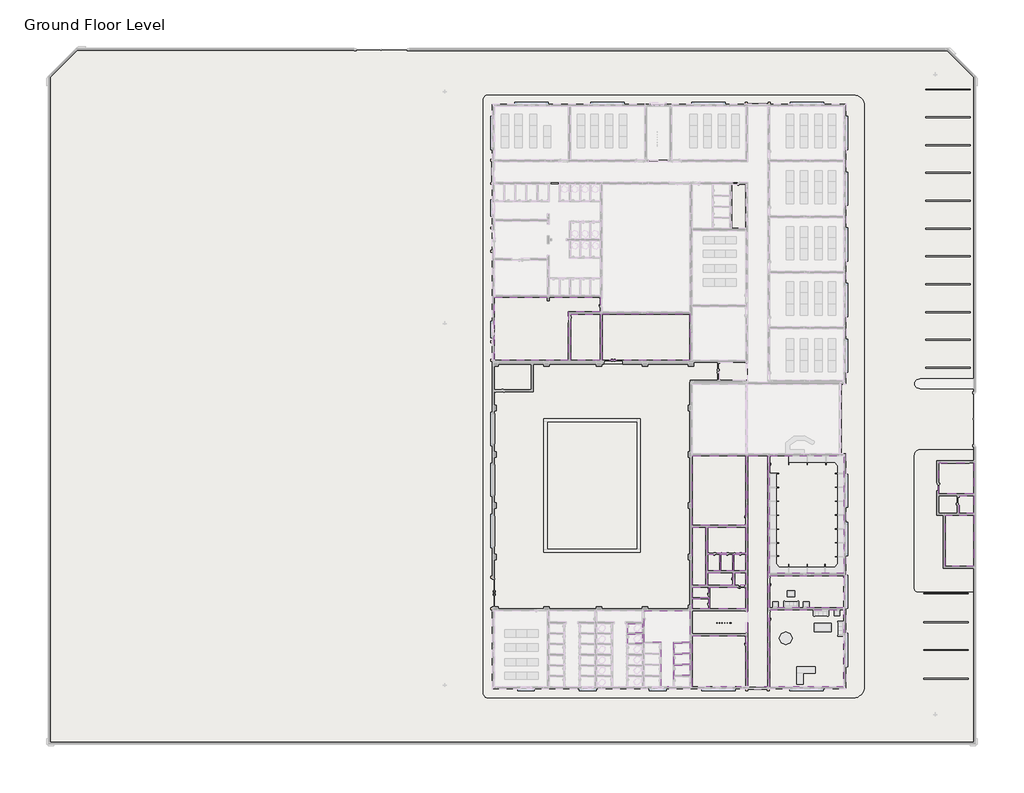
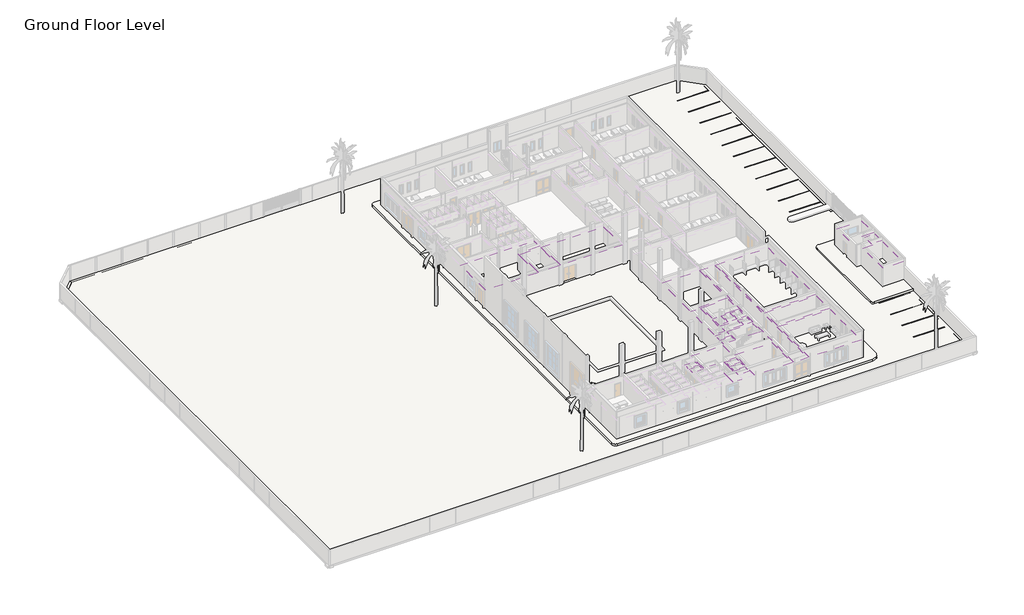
# One storey, part 11 of 23: 28 coverings, 18 slabs.
"""IFC4 building model written with IfcOpenShell, lengths in millimetres."""

from ifc_helpers import new_model, si_unit, point, frame, frame_2d, origin, place, context, project, spatial, polyline, circle_curve, trimmed, segment, composite_curve, outline, extrude, faceted_brep, element, save

model = new_model("IFC4")

# Units and contexts
model_context = context("Model", 3, world=origin())
ifc_project = project(units=[si_unit("LENGTHUNIT", "METRE", prefix="MILLI")], contexts=[model_context])

# Site, building, storey
site = spatial("IfcSite", under=ifc_project)
building = spatial("IfcBuilding", under=site)
storey = spatial("IfcBuildingStorey", under=building, Name="Ground Floor Level", Elevation=900.0)

# Coverings
placement = place(None, origin())
element("IfcCovering", 1, ObjectType="600 x 1200mm Grid", at=placement, inside=storey, context=model_context, shape_type="SweptSolid", body=[
    extrude(outline(polyline([(15843.0482736, -28944.7846466), (7862.7672395, -28944.7846466), (7862.7672395, -16264.7846466), (15843.0482736, -16264.7846466), (15843.0482736, -28944.7846466)])), frame((0.0, 0.0, 3650.0), z_axis=(0.0, 0.0, 1.0), x_axis=(1.0, 0.0, 0.0)), (0.0, 0.0, 1.0), 52.0),
])
element("IfcCovering", 2, ObjectType="600 x 600mm Grid", at=placement, inside=storey, context=model_context, shape_type="SweptSolid", body=[
    extrude(outline(polyline([(-757.2327605, -5944.7846466), (-10237.2327605, -5944.7846466), (-10237.2327605, -964.7846466), (-757.2327605, -964.7846466), (-757.2327605, -5944.7846466)])), frame((0.0, 0.0, 3650.0), z_axis=(0.0, 0.0, 1.0), x_axis=(1.0, 0.0, 0.0)), (0.0, 0.0, 1.0), 52.0),
])
element("IfcCovering", 3, ObjectType="600 x 600mm Grid", at=placement, inside=storey, context=model_context, shape_type="SweptSolid", body=[
    extrude(outline(polyline([(5242.7672394, -16264.7846466), (5242.7672394, -23744.7846466), (-537.2327605, -23744.7846466), (-537.2327605, -16264.7846466), (5242.7672394, -16264.7846466)])), frame((0.0, 0.0, 3650.0), z_axis=(0.0, 0.0, 1.0), x_axis=(1.0, 0.0, 0.0)), (0.0, 0.0, 1.0), 52.0),
])
element("IfcCovering", 4, ObjectType="600 x 600mm Grid", at=placement, inside=storey, context=model_context, shape_type="SweptSolid", body=[
    extrude(outline(polyline([(15843.0482736, -32644.7846466), (7862.7672395, -32644.7846466), (7862.7672395, -29164.7846466), (15843.0482736, -29164.7846466), (15843.0482736, -32644.7846466)])), frame((0.0, 0.0, 3650.0), z_axis=(0.0, 0.0, 1.0), x_axis=(1.0, 0.0, 0.0)), (0.0, 0.0, 1.0), 52.0),
])
element("IfcCovering", 5, ObjectType="600 x 600mm Grid", at=placement, inside=storey, context=model_context, shape_type="SweptSolid", body=[
    extrude(outline(polyline([(7862.7672395, -41144.7846466), (7862.7672395, -32864.7846466), (15843.0482736, -32864.7846466), (15843.0482736, -41144.7846466), (7862.7672395, -41144.7846466)])), frame((0.0, 0.0, 3650.0), z_axis=(0.0, 0.0, 1.0), x_axis=(1.0, 0.0, 0.0)), (0.0, 0.0, 1.0), 52.0),
])
element("IfcCovering", 6, ObjectType="600 x 600mm Grid", at=placement, inside=storey, context=model_context, shape_type="SweptSolid", body=[
    extrude(outline(polyline([(-537.2327605, -41144.7846466), (-537.2327605, -35664.7846466), (5242.7672394, -35664.7846466), (5242.7672394, -41144.7846466), (-537.2327605, -41144.7846466)])), frame((0.0, 0.0, 3650.0), z_axis=(0.0, 0.0, 1.0), x_axis=(1.0, 0.0, 0.0)), (0.0, 0.0, 1.0), 52.0),
])
element("IfcCovering", 7, ObjectType="600 x 600mm Grid", at=placement, inside=storey, context=model_context, shape_type="SweptSolid", body=[
    extrude(outline(polyline([(-21837.2327605, 835.2153534), (-10457.2327605, 835.2153534), (-10457.2327605, -734.7846466), (-13867.2327605, -734.7846466), (-13867.2327605, -5944.7846466), (-21837.2327605, -5944.7846466), (-21837.2327605, 835.2153534)])), frame((0.0, 0.0, 3650.0), z_axis=(0.0, 0.0, 1.0), x_axis=(1.0, 0.0, 0.0)), (0.0, 0.0, 1.0), 52.0),
])
element("IfcCovering", 8, ObjectType="600 x 600mm Grid", at=placement, inside=storey, context=model_context, shape_type="SweptSolid", body=[
    extrude(outline(polyline([(-13627.2327605, -974.7846466), (-10457.2327605, -974.7846466), (-10457.2327605, -5944.7846466), (-13627.2327605, -5944.7846466), (-13627.2327605, -974.7846466)])), frame((0.0, 0.0, 3650.0), z_axis=(0.0, 0.0, 1.0), x_axis=(1.0, 0.0, 0.0)), (0.0, 0.0, 1.0), 52.0),
])
element("IfcCovering", 9, ObjectType="600 x 600mm Grid", at=placement, inside=storey, context=model_context, shape_type="SweptSolid", body=[
    extrude(outline(polyline([(26062.7672395, -17014.7846454), (29842.7672395, -17014.7846454), (29842.7672395, -20344.7846454), (26062.7672395, -20344.7846454), (26062.7672395, -17014.7846454)])), frame((0.0, 0.0, 3650.0), z_axis=(0.0, 0.0, 1.0), x_axis=(1.0, 0.0, 0.0)), (0.0, 0.0, 1.0), 52.0),
])
element("IfcCovering", 10, ObjectType="600 x 600mm Grid", at=placement, inside=storey, context=model_context, shape_type="SweptSolid", body=[
    extrude(outline(polyline([(29842.7672395, -20564.7846454), (29842.7672395, -22464.7846454), (28282.7672395, -22464.7846454), (28282.7672395, -20564.7846454), (29842.7672395, -20564.7846454)])), frame((0.0, 0.0, 3650.0), z_axis=(0.0, 0.0, 1.0), x_axis=(1.0, 0.0, 0.0)), (0.0, 0.0, 1.0), 52.0),
])
element("IfcCovering", 11, ObjectType="600 x 600mm Grid", at=placement, inside=storey, context=model_context, shape_type="SweptSolid", body=[
    extrude(outline(polyline([(29842.7672395, -22684.7846454), (29842.7672395, -28144.7846456), (26762.7672394, -28144.7846456), (26762.7672394, -22684.7846454), (29842.7672395, -22684.7846454)])), frame((0.0, 0.0, 3650.0), z_axis=(0.0, 0.0, 1.0), x_axis=(1.0, 0.0, 0.0)), (0.0, 0.0, 1.0), 52.0),
])
element("IfcCovering", 12, ObjectType="Plain", at=placement, inside=storey, context=model_context, shape_type="SweptSolid", body=[
    extrude(outline(polyline([(-3871.0371386, -36344.7846466), (-5670.5687605, -36344.7846466), (-5670.5687605, -32964.7846466), (-757.2327605, -32964.7846466), (-757.2327605, -36344.7846466), (-2556.7643824, -36344.7846466), (-2556.7643824, -41144.7846466), (-3871.0371386, -41144.7846466), (-3871.0371386, -36344.7846466)])), frame((0.0, 0.0, 3650.0), z_axis=(0.0, 0.0, 1.0), x_axis=(1.0, 0.0, 0.0)), (0.0, 0.0, 1.0), 57.0),
])
element("IfcCovering", 13, ObjectType="Plain", at=placement, inside=storey, context=model_context, shape_type="SweptSolid", body=[
    extrude(outline(polyline([(-7467.2347605, -35512.7835466), (-5890.5687605, -35512.7835466), (-5890.5687605, -36482.7833366), (-7467.2347605, -36482.7833366), (-7467.2347605, -35512.7835466)])), frame((0.0, 0.0, 3650.0), z_axis=(0.0, 0.0, 1.0), x_axis=(1.0, 0.0, 0.0)), (0.0, 0.0, 1.0), 57.0),
])
element("IfcCovering", 14, ObjectType="Plain", at=placement, inside=storey, context=model_context, shape_type="SweptSolid", body=[
    extrude(outline(polyline([(-5890.5687605, -34364.6926466), (-5890.5687605, -35342.7835466), (-7467.2347605, -35342.7835466), (-7467.2347605, -34364.6926466), (-5890.5687605, -34364.6926466)])), frame((0.0, 0.0, 3650.0), z_axis=(0.0, 0.0, 1.0), x_axis=(1.0, 0.0, 0.0)), (0.0, 0.0, 1.0), 57.0),
])
element("IfcCovering", 15, ObjectType="Plain", at=placement, inside=storey, context=model_context, shape_type="SweptSolid", body=[
    extrude(outline(polyline([(-757.2327605, -37544.7846466), (-2436.7643824, -37544.7846466), (-2436.7643824, -36464.7846466), (-757.2327605, -36464.7846466), (-757.2327605, -37544.7846466)])), frame((0.0, 0.0, 3650.0), z_axis=(0.0, 0.0, 1.0), x_axis=(1.0, 0.0, 0.0)), (0.0, 0.0, 1.0), 57.0),
])
element("IfcCovering", 16, ObjectType="Plain", at=placement, inside=storey, context=model_context, shape_type="SweptSolid", body=[
    extrude(outline(polyline([(-757.2327605, -38744.7846466), (-2436.7643824, -38744.7846466), (-2436.7643824, -37664.7846466), (-757.2327605, -37664.7846466), (-757.2327605, -38744.7846466)])), frame((0.0, 0.0, 3650.0), z_axis=(0.0, 0.0, 1.0), x_axis=(1.0, 0.0, 0.0)), (0.0, 0.0, 1.0), 57.0),
])
element("IfcCovering", 17, ObjectType="Plain", at=placement, inside=storey, context=model_context, shape_type="SweptSolid", body=[
    extrude(outline(polyline([(-757.2327605, -39944.7846466), (-2436.7643824, -39944.7846466), (-2436.7643824, -38864.7846466), (-757.2327605, -38864.7846466), (-757.2327605, -39944.7846466)])), frame((0.0, 0.0, 3650.0), z_axis=(0.0, 0.0, 1.0), x_axis=(1.0, 0.0, 0.0)), (0.0, 0.0, 1.0), 57.0),
])
element("IfcCovering", 18, ObjectType="Plain", at=placement, inside=storey, context=model_context, shape_type="SweptSolid", body=[
    extrude(outline(polyline([(5462.7672394, -35354.7846466), (5462.7672394, -33074.7846466), (5462.7672394, -16264.7846466), (7642.7672395, -16264.7846466), (7642.7672395, -41144.7846466), (5462.7672394, -41144.7846466), (5462.7672394, -35354.7846466)])), frame((0.0, 0.0, 3650.0), z_axis=(0.0, 0.0, 1.0), x_axis=(1.0, 0.0, 0.0)), (0.0, 0.0, 1.0), 57.0),
])
element("IfcCovering", 19, ObjectType="Plain", at=placement, inside=storey, context=model_context, shape_type="SweptSolid", body=[
    extrude(outline(polyline([(5242.7672394, -23964.7846466), (5242.7672394, -26744.7846466), (1162.7672395, -26744.7846466), (1162.7672395, -23964.7846466), (5242.7672394, -23964.7846466)])), frame((0.0, 0.0, 3650.0), z_axis=(0.0, 0.0, 1.0), x_axis=(1.0, 0.0, 0.0)), (0.0, 0.0, 1.0), 57.0),
])
element("IfcCovering", 20, ObjectType="Plain", at=placement, inside=storey, context=model_context, shape_type="SweptSolid", body=[
    extrude(outline(polyline([(942.7672395, -30234.7846466), (-537.2327605, -30234.7846466), (-537.2327605, -23964.7846466), (942.7672395, -23964.7846466), (942.7672395, -30234.7846466)])), frame((0.0, 0.0, 3650.0), z_axis=(0.0, 0.0, 1.0), x_axis=(1.0, 0.0, 0.0)), (0.0, 0.0, 1.0), 57.0),
])
element("IfcCovering", 21, ObjectType="Plain", at=placement, inside=storey, context=model_context, shape_type="SweptSolid", body=[
    extrude(outline(polyline([(2442.7672395, -28644.7846466), (1162.7672395, -28644.7846466), (1162.7672395, -26864.7846466), (2442.7672395, -26864.7846466), (2442.7672395, -28644.7846466)])), frame((0.0, 0.0, 3650.0), z_axis=(0.0, 0.0, 1.0), x_axis=(1.0, 0.0, 0.0)), (0.0, 0.0, 1.0), 57.0),
])
element("IfcCovering", 22, ObjectType="Plain", at=placement, inside=storey, context=model_context, shape_type="SweptSolid", body=[
    extrude(outline(polyline([(3842.7672395, -26864.7846466), (3842.7672395, -28644.7846466), (2562.7672395, -28644.7846466), (2562.7672395, -26864.7846466), (3842.7672395, -26864.7846466)])), frame((0.0, 0.0, 3650.0), z_axis=(0.0, 0.0, 1.0), x_axis=(1.0, 0.0, 0.0)), (0.0, 0.0, 1.0), 57.0),
])
element("IfcCovering", 23, ObjectType="Plain", at=placement, inside=storey, context=model_context, shape_type="SweptSolid", body=[
    extrude(outline(polyline([(5242.7672394, -26864.7846466), (5242.7672394, -28644.7846466), (3962.7672395, -28644.7846466), (3962.7672395, -26864.7846466), (5242.7672394, -26864.7846466)])), frame((0.0, 0.0, 3650.0), z_axis=(0.0, 0.0, 1.0), x_axis=(1.0, 0.0, 0.0)), (0.0, 0.0, 1.0), 57.0),
])
element("IfcCovering", 24, ObjectType="Plain", at=placement, inside=storey, context=model_context, shape_type="SweptSolid", body=[
    extrude(outline(polyline([(3842.7672395, -30234.7846466), (1162.7672395, -30234.7846466), (1162.7672395, -28864.7846466), (3842.7672395, -28864.7846466), (3842.7672395, -30234.7846466)])), frame((0.0, 0.0, 3650.0), z_axis=(0.0, 0.0, 1.0), x_axis=(1.0, 0.0, 0.0)), (0.0, 0.0, 1.0), 57.0),
])
element("IfcCovering", 25, ObjectType="Plain", at=placement, inside=storey, context=model_context, shape_type="SweptSolid", body=[
    extrude(outline(polyline([(5242.7672394, -28864.7846466), (5242.7672394, -30234.7846466), (4062.7672395, -30234.7846466), (4062.7672395, -28864.7846466), (5242.7672394, -28864.7846466)])), frame((0.0, 0.0, 3650.0), z_axis=(0.0, 0.0, 1.0), x_axis=(1.0, 0.0, 0.0)), (0.0, 0.0, 1.0), 57.0),
])
element("IfcCovering", 26, ObjectType="Plain", at=placement, inside=storey, context=model_context, shape_type="SweptSolid", body=[
    extrude(outline(polyline([(5242.7672394, -30454.7846466), (5242.7672394, -32744.7846466), (1362.7672395, -32744.7846466), (1362.7672395, -30454.7846466), (5242.7672394, -30454.7846466)])), frame((0.0, 0.0, 3650.0), z_axis=(0.0, 0.0, 1.0), x_axis=(1.0, 0.0, 0.0)), (0.0, 0.0, 1.0), 57.0),
])
element("IfcCovering", 27, ObjectType="Plain", at=placement, inside=storey, context=model_context, shape_type="SweptSolid", body=[
    extrude(outline(polyline([(-537.2327605, -31544.7846466), (-537.2327605, -30454.7846466), (1242.7672395, -30454.7846466), (1242.7672395, -31544.7846466), (-537.2327605, -31544.7846466)])), frame((0.0, 0.0, 3650.0), z_axis=(0.0, 0.0, 1.0), x_axis=(1.0, 0.0, 0.0)), (0.0, 0.0, 1.0), 57.0),
])
element("IfcCovering", 28, ObjectType="Plain", at=placement, inside=storey, context=model_context, shape_type="SweptSolid", body=[
    extrude(outline(polyline([(1242.7672395, -32744.7846466), (-537.2327605, -32744.7846466), (-537.2327605, -31664.7846466), (1242.7672395, -31664.7846466), (1242.7672395, -32744.7846466)])), frame((0.0, 0.0, 3650.0), z_axis=(0.0, 0.0, 1.0), x_axis=(1.0, 0.0, 0.0)), (0.0, 0.0, 1.0), 57.0),
])

# Slabs
element("IfcSlab", 29, ObjectType="Generic  40cm", at=placement, inside=storey, context=model_context, shape_type="SweptSolid", body=[
    extrude(outline(polyline([(-6097.2327605, -12254.7846466), (-6097.2327605, -24954.7846466), (-16497.2327605, -24954.7846466), (-16497.2327605, -12254.7846466), (-6097.2327605, -12254.7846466)])), frame((0.0, 0.0, -3550.0), z_axis=(0.0, 0.0, 1.0), x_axis=(1.0, 0.0, 0.0)), (0.0, 0.0, 1.0), 450.0),
])
element("IfcSlab", 30, ObjectType="Generic  40cm", at=placement, inside=storey, context=model_context, shape_type="SweptSolid", body=[
    extrude(outline(polyline([(-16497.2327605, -24954.7846466), (-6097.2327605, -24954.7846466), (-6097.2327605, -26654.7846466), (-16497.2327605, -26654.7846466), (-16497.2327605, -24954.7846466)])), frame((0.0, 0.0, -1550.0), z_axis=(0.0, 0.0, 1.0), x_axis=(1.0, 0.0, 0.0)), (0.0, 0.0, 1.0), 450.0),
])
element("IfcSlab", 31, ObjectType="Ceramic Tile Floor 30x30", at=placement, inside=storey, context=model_context, shape_type="Brep", body=[
    faceted_brep([(-10247.2327605, 845.2153534, 900.0), (-10247.2327605, -754.7846466, 900.0), (-10457.2327605, -754.7846466, 900.0), (-13847.2327605, -754.7846466, 900.0), (-13847.2327605, -974.7846466, 900.0), (-13847.2327605, -5944.7846466, 900.0), (-13847.2327605, -5954.7846466, 900.0), (-15947.2327605, -5954.7846466, 900.0), (-16547.2327605, -5954.7846466, 900.0), (-21447.2327605, -5954.7846466, 900.0), (-21837.2327605, -5954.7846466, 900.0), (-21847.2327605, -5954.7846466, 900.0), (-21847.2327605, -1154.7846466, 900.0), (-21847.2327605, -654.7846466, 900.0), (-21847.2327605, 845.2153534, 900.0), (-10247.2327605, 845.2153534, 1000.0), (-21847.2327605, 845.2153534, 1000.0), (-21847.2327605, -654.7846466, 1000.0), (-21847.2327605, -1154.7846466, 1000.0), (-21847.2327605, -4144.7846466, 1000.0), (-21847.2327605, -5744.7846466, 1000.0), (-21847.2327605, -5954.7846466, 1000.0), (-21837.2327605, -5954.7846466, 1000.0), (-21447.2327605, -5954.7846466, 1000.0), (-16547.2327605, -5954.7846466, 1000.0), (-15947.2327605, -5954.7846466, 1000.0), (-13847.2327605, -5954.7846466, 1000.0), (-13847.2327605, -5944.7846466, 1000.0), (-13847.2327605, -1912.7846466, 1000.0), (-13847.2327605, -1174.7846466, 1000.0), (-13847.2327605, -974.7846466, 1000.0), (-13847.2327605, -754.7846466, 1000.0), (-10457.2327605, -754.7846466, 1000.0), (-10247.2327605, -754.7846466, 1000.0)], [[[0, 1, 2, 3, 4, 5, 6, 7, 8, 9, 10, 11, 12, 13, 14]], [[15, 16, 17, 18, 19, 20, 21, 22, 23, 24, 25, 26, 27, 28, 29, 30, 31, 32, 33]], [[1, 0, 15, 33]], [[3, 2, 1, 33, 32, 31]], [[6, 5, 4, 3, 31, 30, 29, 28, 27, 26]], [[11, 10, 9, 8, 7, 6, 26, 25, 24, 23, 22, 21]], [[14, 13, 12, 11, 21, 20, 19, 18, 17, 16]], [[0, 14, 16, 15]]]),
])
element("IfcSlab", 32, ObjectType="Ceramic Tile Floor 30x30", at=placement, inside=storey, context=model_context, shape_type="Brep", body=[
    faceted_brep([(-13647.2327605, -954.7846466, 900.0), (-10457.2327605, -954.7846466, 900.0), (-10447.2327605, -954.7846466, 900.0), (-10447.2327605, -1354.7846466, 900.0), (-10447.2327605, -5944.7846466, 900.0), (-10447.2327605, -5954.7846466, 900.0), (-10847.2327605, -5954.7846466, 900.0), (-13647.2327605, -5954.7846466, 900.0), (-13647.2327605, -5944.7846466, 900.0), (-13647.2327605, -974.7846466, 900.0), (-13647.2327605, -954.7846466, 1000.0), (-13647.2327605, -974.7846466, 1000.0), (-13647.2327605, -1174.7846466, 1000.0), (-13647.2327605, -1912.7846466, 1000.0), (-13647.2327605, -5944.7846466, 1000.0), (-13647.2327605, -5954.7846466, 1000.0), (-10847.2327605, -5954.7846466, 1000.0), (-10447.2327605, -5954.7846466, 1000.0), (-10447.2327605, -5944.7846466, 1000.0), (-10447.2327605, -1354.7846466, 1000.0), (-10447.2327605, -954.7846466, 1000.0), (-10457.2327605, -954.7846466, 1000.0)], [[[0, 1, 2, 3, 4, 5, 6, 7, 8, 9]], [[10, 11, 12, 13, 14, 15, 16, 17, 18, 19, 20, 21]], [[2, 1, 0, 10, 21, 20]], [[5, 4, 3, 2, 20, 19, 18, 17]], [[7, 6, 5, 17, 16, 15]], [[0, 9, 8, 7, 15, 14, 13, 12, 11, 10]]]),
])
element("IfcSlab", 33, ObjectType="Ceramic Tile Floor 30x30", at=placement, inside=storey, context=model_context, shape_type="Brep", body=[
    faceted_brep([(5252.7672394, -23954.7846466, 900.0), (5252.7672394, -26754.7846466, 900.0), (5252.7672394, -27354.7846466, 900.0), (5252.7672394, -32744.7846466, 900.0), (5242.7672394, -32744.7846466, 900.0), (-537.2327605, -32744.7846466, 900.0), (-547.2327605, -32744.7846466, 900.0), (-547.2327605, -32354.7846466, 900.0), (-547.2327605, -30444.7846466, 900.0), (-537.2327605, -30444.7846466, 900.0), (1152.7672395, -30444.7846466, 900.0), (1152.7672395, -30234.7846466, 900.0), (1152.7672395, -23964.7846466, 900.0), (1152.7672395, -23954.7846466, 900.0), (4852.7672395, -23954.7846466, 900.0), (5252.7672394, -23954.7846466, 1000.0), (5242.7672394, -23954.7846466, 1000.0), (4852.7672395, -23954.7846466, 1000.0), (1152.7672395, -23954.7846466, 1000.0), (1152.7672395, -23964.7846466, 1000.0), (1152.7672395, -30234.7846466, 1000.0), (1152.7672395, -30444.7846466, 1000.0), (-537.2327605, -30444.7846466, 1000.0), (-547.2327605, -30444.7846466, 1000.0), (-547.2327605, -32354.7846466, 1000.0), (-547.2327605, -32744.7846466, 1000.0), (-537.2327605, -32744.7846466, 1000.0), (5242.7672394, -32744.7846466, 1000.0), (5252.7672394, -32744.7846466, 1000.0), (5252.7672394, -27354.7846466, 1000.0), (5252.7672394, -26754.7846466, 1000.0)], [[[0, 1, 2, 3, 4, 5, 6, 7, 8, 9, 10, 11, 12, 13, 14]], [[15, 16, 17, 18, 19, 20, 21, 22, 23, 24, 25, 26, 27, 28, 29, 30]], [[3, 2, 1, 0, 15, 30, 29, 28]], [[6, 5, 4, 3, 28, 27, 26, 25]], [[8, 7, 6, 25, 24, 23]], [[10, 9, 8, 23, 22, 21]], [[13, 12, 11, 10, 21, 20, 19, 18]], [[0, 14, 13, 18, 17, 16, 15]]]),
])
element("IfcSlab", 34, ObjectType="Ceramic Tile Floor 60x60cm", at=placement, inside=storey, context=model_context, shape_type="Brep", body=[
    faceted_brep([(5252.7672394, -35654.7846466, 900.0), (5252.7672394, -41144.7846466, 900.0), (5252.7672394, -41154.7846466, 900.0), (4952.7672395, -41154.7846466, 900.0), (-547.2327605, -41154.7846466, 900.0), (-547.2327605, -40854.7846466, 900.0), (-547.2327605, -36054.7846466, 900.0), (-547.2327605, -35654.7846466, 900.0), (-537.2327605, -35654.7846466, 900.0), (4852.7672395, -35654.7846466, 900.0), (5252.7672394, -35654.7846466, 1000.0), (5242.7672394, -35654.7846466, 1000.0), (4852.7672395, -35654.7846466, 1000.0), (-537.2327605, -35654.7846466, 1000.0), (-547.2327605, -35654.7846466, 1000.0), (-547.2327605, -36054.7846466, 1000.0), (-547.2327605, -40854.7846466, 1000.0), (-547.2327605, -41144.7846466, 1000.0), (-547.2327605, -41154.7846466, 1000.0), (4952.7672395, -41154.7846466, 1000.0), (5252.7672394, -41154.7846466, 1000.0), (5252.7672394, -41144.7846466, 1000.0), (5252.7672394, -36702.7846466, 1000.0), (5252.7672394, -35764.7846466, 1000.0)], [[[0, 1, 2, 3, 4, 5, 6, 7, 8, 9]], [[10, 11, 12, 13, 14, 15, 16, 17, 18, 19, 20, 21, 22, 23]], [[2, 1, 0, 10, 23, 22, 21, 20]], [[4, 3, 2, 20, 19, 18]], [[7, 6, 5, 4, 18, 17, 16, 15, 14]], [[0, 9, 8, 7, 14, 13, 12, 11, 10]]]),
])
element("IfcSlab", 35, ObjectType="Ceramic Tile Floor 60x60cm", at=placement, inside=storey, context=model_context, shape_type="Brep", body=[
    faceted_brep([(15853.0482736, -32854.7846466, 900.0), (15853.0482736, -33004.7846466, 900.0), (15853.0482736, -36354.7846466, 900.0), (15853.0482736, -36854.7846466, 900.0), (15853.0482736, -40954.7846466, 900.0), (15853.0482736, -41154.7846466, 900.0), (15852.7672395, -41154.7846466, 900.0), (15843.0482736, -41154.7846466, 900.0), (11502.7672395, -41154.7846466, 900.0), (11002.7672395, -41154.7846466, 900.0), (7852.7672395, -41154.7846466, 900.0), (7852.7672395, -40854.7846466, 900.0), (7852.7672395, -36904.7846466, 900.0), (7852.7672395, -36304.7846466, 900.0), (7852.7672395, -33054.7846466, 900.0), (7852.7672395, -32854.7846466, 900.0), (7862.7672395, -32854.7846466, 900.0), (15843.0482736, -32854.7846466, 900.0), (15852.7672395, -32854.7846466, 900.0), (15853.0482736, -32854.7846466, 1000.0), (15852.7672395, -32854.7846466, 1000.0), (15843.0482736, -32854.7846466, 1000.0), (7862.7672395, -32854.7846466, 1000.0), (7852.7672395, -32854.7846466, 1000.0), (7852.7672395, -33054.7846466, 1000.0), (7852.7672395, -33064.7846466, 1000.0), (7852.7672395, -34002.7846466, 1000.0), (7852.7672395, -36304.7846466, 1000.0), (7852.7672395, -36904.7846466, 1000.0), (7852.7672395, -40854.7846466, 1000.0), (7852.7672395, -41144.7846466, 1000.0), (7852.7672395, -41154.7846466, 1000.0), (11002.7672395, -41154.7846466, 1000.0), (11502.7672395, -41154.7846466, 1000.0), (15843.0482736, -41154.7846466, 1000.0), (15852.7672395, -41154.7846466, 1000.0), (15853.0482736, -41154.7846466, 1000.0), (15853.0482736, -40954.7846466, 1000.0), (15853.0482736, -36854.7846466, 1000.0), (15853.0482736, -36354.7846466, 1000.0), (15853.0482736, -33004.7846466, 1000.0)], [[[0, 1, 2, 3, 4, 5, 6, 7, 8, 9, 10, 11, 12, 13, 14, 15, 16, 17, 18]], [[19, 20, 21, 22, 23, 24, 25, 26, 27, 28, 29, 30, 31, 32, 33, 34, 35, 36, 37, 38, 39, 40]], [[5, 4, 3, 2, 1, 0, 19, 40, 39, 38, 37, 36]], [[10, 9, 8, 7, 6, 5, 36, 35, 34, 33, 32, 31]], [[15, 14, 13, 12, 11, 10, 31, 30, 29, 28, 27, 26, 25, 24, 23]], [[0, 18, 17, 16, 15, 23, 22, 21, 20, 19]]]),
])
element("IfcSlab", 36, ObjectType="Ceramic Tile Floor 60x60cm", at=placement, inside=storey, context=model_context, shape_type="Brep", body=[
    faceted_brep([(15853.0482736, -29154.7846466, 900.0), (15853.0482736, -29304.7846466, 900.0), (15853.0482736, -32504.7846466, 900.0), (15853.0482736, -32654.7846466, 900.0), (15852.7672395, -32654.7846466, 900.0), (15843.0482736, -32654.7846466, 900.0), (7862.7672395, -32654.7846466, 900.0), (7852.7672395, -32654.7846466, 900.0), (7852.7672395, -32454.7846466, 900.0), (7852.7672395, -29354.7846466, 900.0), (7852.7672395, -29154.7846466, 900.0), (7862.7672395, -29154.7846466, 900.0), (11552.7672395, -29154.7846466, 900.0), (12152.7672395, -29154.7846466, 900.0), (15843.0482736, -29154.7846466, 900.0), (15852.7672395, -29154.7846466, 900.0), (15853.0482736, -29154.7846466, 1000.0), (15852.7672395, -29154.7846466, 1000.0), (15843.0482736, -29154.7846466, 1000.0), (12152.7672395, -29154.7846466, 1000.0), (11552.7672395, -29154.7846466, 1000.0), (7862.7672395, -29154.7846466, 1000.0), (7852.7672395, -29154.7846466, 1000.0), (7852.7672395, -29354.7846466, 1000.0), (7852.7672395, -29364.7846466, 1000.0), (7852.7672395, -30302.7846466, 1000.0), (7852.7672395, -32454.7846466, 1000.0), (7852.7672395, -32654.7846466, 1000.0), (7862.7672395, -32654.7846466, 1000.0), (15843.0482736, -32654.7846466, 1000.0), (15852.7672395, -32654.7846466, 1000.0), (15853.0482736, -32654.7846466, 1000.0), (15853.0482736, -32504.7846466, 1000.0), (15853.0482736, -29304.7846466, 1000.0)], [[[0, 1, 2, 3, 4, 5, 6, 7, 8, 9, 10, 11, 12, 13, 14, 15]], [[16, 17, 18, 19, 20, 21, 22, 23, 24, 25, 26, 27, 28, 29, 30, 31, 32, 33]], [[3, 2, 1, 0, 16, 33, 32, 31]], [[7, 6, 5, 4, 3, 31, 30, 29, 28, 27]], [[10, 9, 8, 7, 27, 26, 25, 24, 23, 22]], [[0, 15, 14, 13, 12, 11, 10, 22, 21, 20, 19, 18, 17, 16]]]),
])
element("IfcSlab", 37, ObjectType="Ceramic Tile Floor 60x60cm", at=placement, inside=storey, context=model_context, shape_type="Brep", body=[
    faceted_brep([(15853.0482736, -16254.7846466, 900.0), (15853.0482736, -16554.7846466, 900.0), (15853.0482736, -21354.7846466, 900.0), (15853.0482736, -21854.7846466, 900.0), (15853.0482736, -23904.2217867, 900.0), (15853.0482736, -24404.2217867, 900.0), (15853.0482736, -28804.7846466, 900.0), (15853.0482736, -28954.7846466, 900.0), (15852.7672395, -28954.7846466, 900.0), (15843.0482736, -28954.7846466, 900.0), (12152.7672395, -28954.7846466, 900.0), (11552.7672395, -28954.7846466, 900.0), (7862.7672395, -28954.7846466, 900.0), (7852.7672395, -28954.7846466, 900.0), (7852.7672395, -28754.7846466, 900.0), (7852.7672395, -24454.2217867, 900.0), (7852.7672395, -23854.2217867, 900.0), (7852.7672395, -21904.7846466, 900.0), (7852.7672395, -21304.7846466, 900.0), (7852.7672395, -16264.7846466, 900.0), (7852.7672395, -16254.7846466, 900.0), (8252.7672395, -16254.7846466, 900.0), (11552.7672395, -16254.7846466, 900.0), (12152.7672395, -16254.7846466, 900.0), (15843.0482736, -16254.7846466, 900.0), (15852.7672395, -16254.7846466, 900.0), (15853.0482736, -16254.7846466, 1000.0), (15852.7672395, -16254.7846466, 1000.0), (15843.0482736, -16254.7846466, 1000.0), (12152.7672395, -16254.7846466, 1000.0), (11552.7672395, -16254.7846466, 1000.0), (8252.7672395, -16254.7846466, 1000.0), (7852.7672395, -16254.7846466, 1000.0), (7852.7672395, -16264.7846466, 1000.0), (7852.7672395, -16364.7846466, 1000.0), (7852.7672395, -17302.7846466, 1000.0), (7852.7672395, -21304.7846466, 1000.0), (7852.7672395, -21904.7846466, 1000.0), (7852.7672395, -23854.2217867, 1000.0), (7852.7672395, -24454.2217867, 1000.0), (7852.7672395, -28754.7846466, 1000.0), (7852.7672395, -28954.7846466, 1000.0), (7862.7672395, -28954.7846466, 1000.0), (11552.7672395, -28954.7846466, 1000.0), (12152.7672395, -28954.7846466, 1000.0), (15843.0482736, -28954.7846466, 1000.0), (15852.7672395, -28954.7846466, 1000.0), (15853.0482736, -28954.7846466, 1000.0), (15853.0482736, -28804.7846466, 1000.0), (15853.0482736, -24404.2217867, 1000.0), (15853.0482736, -23904.2217867, 1000.0), (15853.0482736, -21854.7846466, 1000.0), (15853.0482736, -21354.7846466, 1000.0), (15853.0482736, -16554.7846466, 1000.0)], [[[0, 1, 2, 3, 4, 5, 6, 7, 8, 9, 10, 11, 12, 13, 14, 15, 16, 17, 18, 19, 20, 21, 22, 23, 24, 25]], [[26, 27, 28, 29, 30, 31, 32, 33, 34, 35, 36, 37, 38, 39, 40, 41, 42, 43, 44, 45, 46, 47, 48, 49, 50, 51, 52, 53]], [[7, 6, 5, 4, 3, 2, 1, 0, 26, 53, 52, 51, 50, 49, 48, 47]], [[13, 12, 11, 10, 9, 8, 7, 47, 46, 45, 44, 43, 42, 41]], [[20, 19, 18, 17, 16, 15, 14, 13, 41, 40, 39, 38, 37, 36, 35, 34, 33, 32]], [[0, 25, 24, 23, 22, 21, 20, 32, 31, 30, 29, 28, 27, 26]]]),
])
element("IfcSlab", 38, ObjectType="Ceramic Tile Floor 60x60cm", at=placement, inside=storey, context=model_context, shape_type="Brep", body=[
    faceted_brep([(5252.7672394, -16254.7846466, 900.0), (5252.7672394, -16654.7846466, 900.0), (5252.7672394, -21304.7846466, 900.0), (5252.7672394, -21904.7846466, 900.0), (5252.7672394, -23754.7846466, 900.0), (4852.7672395, -23754.7846466, 900.0), (-537.2327605, -23754.7846466, 900.0), (-547.2327605, -23754.7846466, 900.0), (-547.2327605, -21904.7846466, 900.0), (-547.2327605, -21304.7846466, 900.0), (-547.2327605, -16404.7846466, 900.0), (-547.2327605, -16254.7846466, 900.0), (-537.2327605, -16254.7846466, 900.0), (5252.7672394, -16254.7846466, 1000.0), (-537.2327605, -16254.7846466, 1000.0), (-547.2327605, -16254.7846466, 1000.0), (-547.2327605, -16404.7846466, 1000.0), (-547.2327605, -21304.7846466, 1000.0), (-547.2327605, -21904.7846466, 1000.0), (-547.2327605, -23754.7846466, 1000.0), (-537.2327605, -23754.7846466, 1000.0), (4852.7672395, -23754.7846466, 1000.0), (5242.7672394, -23754.7846466, 1000.0), (5252.7672394, -23754.7846466, 1000.0), (5252.7672394, -23644.7846466, 1000.0), (5252.7672394, -22706.7846466, 1000.0), (5252.7672394, -21904.7846466, 1000.0), (5252.7672394, -21304.7846466, 1000.0), (5252.7672394, -16654.7846466, 1000.0), (5252.7672394, -16264.7846466, 1000.0)], [[[0, 1, 2, 3, 4, 5, 6, 7, 8, 9, 10, 11, 12]], [[13, 14, 15, 16, 17, 18, 19, 20, 21, 22, 23, 24, 25, 26, 27, 28, 29]], [[4, 3, 2, 1, 0, 13, 29, 28, 27, 26, 25, 24, 23]], [[7, 6, 5, 4, 23, 22, 21, 20, 19]], [[11, 10, 9, 8, 7, 19, 18, 17, 16, 15]], [[0, 12, 11, 15, 14, 13]]]),
])
element("IfcSlab", 39, ObjectType="Ceramic Tile Floor 60x60cm", at=placement, inside=storey, context=model_context, shape_type="Brep", body=[
    faceted_brep([(7652.7672395, -16254.7846466, 900.0), (7652.7672395, -16264.7846466, 900.0), (7652.7672395, -21304.7846466, 900.0), (7652.7672395, -21904.7846466, 900.0), (7652.7672395, -23854.2217867, 900.0), (7652.7672395, -24454.2217867, 900.0), (7652.7672395, -28754.7846466, 900.0), (7652.7672395, -29354.7846466, 900.0), (7652.7672395, -32454.7846466, 900.0), (7652.7672395, -33054.7846466, 900.0), (7652.7672395, -36304.7846466, 900.0), (7652.7672395, -36904.7846466, 900.0), (7652.7672395, -40854.7846466, 900.0), (7652.7672395, -41154.7846466, 900.0), (7578.7672394, -41154.7846466, 900.0), (5526.7672394, -41154.7846466, 900.0), (5452.7672394, -41154.7846466, 900.0), (5452.7672394, -41144.7846466, 900.0), (5452.7672394, -35654.7846466, 900.0), (5452.7672394, -32964.7846466, 900.0), (5452.7672394, -32954.7846466, 900.0), (5452.7672394, -32754.7846466, 900.0), (5452.7672394, -27354.7846466, 900.0), (5452.7672394, -26754.7846466, 900.0), (5452.7672394, -23954.7846466, 900.0), (5452.7672394, -23754.7846466, 900.0), (5452.7672394, -21904.7846466, 900.0), (5452.7672394, -21304.7846466, 900.0), (5452.7672394, -16654.7846466, 900.0), (5452.7672394, -16254.7846466, 900.0), (7652.7672395, -16254.7846466, 1000.0), (5452.7672394, -16254.7846466, 1000.0), (5452.7672394, -16264.7846466, 1000.0), (5452.7672394, -16654.7846466, 1000.0), (5452.7672394, -21304.7846466, 1000.0), (5452.7672394, -21904.7846466, 1000.0), (5452.7672394, -22706.7846466, 1000.0), (5452.7672394, -23644.7846466, 1000.0), (5452.7672394, -23754.7846466, 1000.0), (5452.7672394, -23954.7846466, 1000.0), (5452.7672394, -26754.7846466, 1000.0), (5452.7672394, -27354.7846466, 1000.0), (5452.7672394, -32754.7846466, 1000.0), (5452.7672394, -32954.7846466, 1000.0), (5452.7672394, -32964.7846466, 1000.0), (5452.7672394, -35454.7846466, 1000.0), (5452.7672394, -35654.7846466, 1000.0), (5452.7672394, -35764.7846466, 1000.0), (5452.7672394, -36702.7846466, 1000.0), (5452.7672394, -41144.7846466, 1000.0), (5452.7672394, -41154.7846466, 1000.0), (5526.7672394, -41154.7846466, 1000.0), (7578.7672394, -41154.7846466, 1000.0), (7652.7672395, -41154.7846466, 1000.0), (7652.7672395, -41144.7846466, 1000.0), (7652.7672395, -40854.7846466, 1000.0), (7652.7672395, -36904.7846466, 1000.0), (7652.7672395, -36304.7846466, 1000.0), (7652.7672395, -34002.7846466, 1000.0), (7652.7672395, -33064.7846466, 1000.0), (7652.7672395, -33054.7846466, 1000.0), (7652.7672395, -32454.7846466, 1000.0), (7652.7672395, -30302.7846466, 1000.0), (7652.7672395, -29364.7846466, 1000.0), (7652.7672395, -29354.7846466, 1000.0), (7652.7672395, -28754.7846466, 1000.0), (7652.7672395, -24454.2217867, 1000.0), (7652.7672395, -23854.2217867, 1000.0), (7652.7672395, -21904.7846466, 1000.0), (7652.7672395, -21304.7846466, 1000.0), (7652.7672395, -17302.7846466, 1000.0), (7652.7672395, -16364.7846466, 1000.0), (7652.7672395, -16264.7846466, 1000.0)], [[[0, 1, 2, 3, 4, 5, 6, 7, 8, 9, 10, 11, 12, 13, 14, 15, 16, 17, 18, 19, 20, 21, 22, 23, 24, 25, 26, 27, 28, 29]], [[30, 31, 32, 33, 34, 35, 36, 37, 38, 39, 40, 41, 42, 43, 44, 45, 46, 47, 48, 49, 50, 51, 52, 53, 54, 55, 56, 57, 58, 59, 60, 61, 62, 63, 64, 65, 66, 67, 68, 69, 70, 71, 72]], [[13, 12, 11, 10, 9, 8, 7, 6, 5, 4, 3, 2, 1, 0, 30, 72, 71, 70, 69, 68, 67, 66, 65, 64, 63, 62, 61, 60, 59, 58, 57, 56, 55, 54, 53]], [[16, 15, 14, 13, 53, 52, 51, 50]], [[29, 28, 27, 26, 25, 24, 23, 22, 21, 20, 19, 18, 17, 16, 50, 49, 48, 47, 46, 45, 44, 43, 42, 41, 40, 39, 38, 37, 36, 35, 34, 33, 32, 31]], [[0, 29, 31, 30]]]),
])
element("IfcSlab", 40, ObjectType="Ceramic Tile Floor 60x60cm", at=placement, inside=storey, context=model_context, shape_type="Brep", body=[
    faceted_brep([(5452.7672394, -32964.7846466, 900.0), (5452.7672394, -35454.7846466, 900.0), (4852.7672395, -35454.7846466, 900.0), (-537.2327605, -35454.7846466, 900.0), (-547.2327605, -35454.7846466, 900.0), (-547.2327605, -32964.7846466, 900.0), (-537.2327605, -32964.7846466, 900.0), (5242.7672394, -32964.7846466, 900.0), (5452.7672394, -32964.7846466, 1000.0), (5242.7672394, -32964.7846466, 1000.0), (-537.2327605, -32964.7846466, 1000.0), (-547.2327605, -32964.7846466, 1000.0), (-547.2327605, -35454.7846466, 1000.0), (-537.2327605, -35454.7846466, 1000.0), (4852.7672395, -35454.7846466, 1000.0), (5242.7672394, -35454.7846466, 1000.0), (5452.7672394, -35454.7846466, 1000.0)], [[[0, 1, 2, 3, 4, 5, 6, 7]], [[8, 9, 10, 11, 12, 13, 14, 15, 16]], [[1, 0, 8, 16]], [[4, 3, 2, 1, 16, 15, 14, 13, 12]], [[5, 4, 12, 11]], [[0, 7, 6, 5, 11, 10, 9, 8]]]),
])
element("IfcSlab", 41, ObjectType="Concrete 20cm", at=placement, inside=storey, context=model_context, shape_type="SweptSolid", body=[
    extrude(outline(polyline([(-69737.2327605, 24558.2305053), (-66820.2479124, 27475.2153534), (26925.7823914, 27475.2153534), (29842.7672395, 24558.2305053), (29842.7672395, -47144.7846466), (-69737.2327605, -47144.7846466), (-69737.2327605, 24558.2305053)]), holes=[composite_curve([segment(trimmed(circle_curve(frame_2d((-22547.2327605, -41854.7846466)), 500.0), [point((-23047.2327605, -41854.7846466))], [point((-22547.2327605, -42354.7846466))], True, "CARTESIAN"), True, "CONTINUOUS"), segment(polyline([(-22547.2327605, -42354.7846466), (16852.7672395, -42354.7846466)]), True, "CONTINUOUS"), segment(trimmed(circle_curve(frame_2d((16852.7672395, -41154.7846466)), 1200.0), [point((16852.7672395, -42354.7846466))], [point((18052.7672395, -41154.7846466))], True, "CARTESIAN"), True, "CONTINUOUS"), segment(polyline([(18052.7672395, -41154.7846466), (18052.7672395, 21445.2153534)]), True, "CONTINUOUS"), segment(trimmed(circle_curve(frame_2d((16852.7672395, 21445.2153534)), 1200.0), [point((18052.7672395, 21445.2153534))], [point((16852.7672395, 22645.2153534))], True, "CARTESIAN"), True, "CONTINUOUS"), segment(polyline([(16852.7672395, 22645.2153534), (-22547.2327605, 22645.2153534)]), True, "CONTINUOUS"), segment(trimmed(circle_curve(frame_2d((-22547.2327605, 22145.2153534)), 500.0), [point((-22547.2327605, 22645.2153534))], [point((-23047.2327605, 22145.2153534))], True, "CARTESIAN"), True, "CONTINUOUS"), segment(polyline([(-23047.2327605, 22145.2153534), (-23047.2327605, -41854.7846466)]), True, "CONTINUOUS")], self_intersect=False)]), frame((0.0, 0.0, 400.0), z_axis=(0.0, 0.0, 1.0), x_axis=(1.0, 0.0, 0.0)), (0.0, 0.0, 1.0), 200.0),
])
element("IfcSlab", 42, ObjectType="Epoxy Floor", at=placement, inside=storey, context=model_context, shape_type="Brep", body=[
    faceted_brep([(-10247.2327605, -954.7846466, 900.0), (-10237.2327605, -954.7846466, 900.0), (-5897.2327605, -954.7846466, 900.0), (-5297.2327605, -954.7846466, 900.0), (-757.2327605, -954.7846466, 900.0), (-747.2327605, -954.7846466, 900.0), (-747.2327605, -2154.7846466, 900.0), (-747.2327605, -2754.7846466, 900.0), (-747.2327605, -5944.7846466, 900.0), (-747.2327605, -5954.7846466, 900.0), (-927.2327605, -5954.7846466, 900.0), (-5297.2327605, -5954.7846466, 900.0), (-5897.2327605, -5954.7846466, 900.0), (-7999.2327605, -5954.7846466, 900.0), (-10037.2327605, -5954.7846466, 900.0), (-10247.2327605, -5954.7846466, 900.0), (-10247.2327605, -5944.7846466, 900.0), (-10247.2327605, -1354.7846466, 900.0), (-10247.2327605, -954.7846466, 910.0), (-10247.2327605, -1354.7846466, 910.0), (-10247.2327605, -5944.7846466, 910.0), (-10247.2327605, -5954.7846466, 910.0), (-10037.2327605, -5954.7846466, 910.0), (-7999.2327605, -5954.7846466, 910.0), (-5897.2327605, -5954.7846466, 910.0), (-5297.2327605, -5954.7846466, 910.0), (-927.2327605, -5954.7846466, 910.0), (-747.2327605, -5954.7846466, 910.0), (-747.2327605, -5944.7846466, 910.0), (-747.2327605, -2754.7846466, 910.0), (-747.2327605, -2154.7846466, 910.0), (-747.2327605, -954.7846466, 910.0), (-757.2327605, -954.7846466, 910.0), (-5297.2327605, -954.7846466, 910.0), (-5897.2327605, -954.7846466, 910.0), (-10237.2327605, -954.7846466, 910.0)], [[[0, 1, 2, 3, 4, 5, 6, 7, 8, 9, 10, 11, 12, 13, 14, 15, 16, 17]], [[18, 19, 20, 21, 22, 23, 24, 25, 26, 27, 28, 29, 30, 31, 32, 33, 34, 35]], [[5, 4, 3, 2, 1, 0, 18, 35, 34, 33, 32, 31]], [[9, 8, 7, 6, 5, 31, 30, 29, 28, 27]], [[15, 14, 13, 12, 11, 10, 9, 27, 26, 25, 24, 23, 22, 21]], [[0, 17, 16, 15, 21, 20, 19, 18]]]),
])
element("IfcSlab", 43, ObjectType="Epoxy Floor", at=placement, inside=storey, context=model_context, shape_type="Brep", body=[
    faceted_brep([(-21847.2327605, -6374.7846466, 900.0), (-21447.2327605, -6374.7846466, 900.0), (-16547.2327605, -6374.7846466, 900.0), (-15947.2327605, -6374.7846466, 900.0), (-10847.2327605, -6374.7846466, 900.0), (-10247.2327605, -6374.7846466, 900.0), (-10037.2327605, -6374.7846466, 900.0), (-7999.2327605, -6374.7846466, 900.0), (-5897.2327605, -6374.7846466, 900.0), (-5297.2327605, -6374.7846466, 900.0), (-947.2327605, -6374.7846466, 900.0), (-347.2327605, -6374.7846466, 900.0), (-347.2327605, -6164.7846466, 900.0), (-347.2327605, -6154.7846466, 900.0), (-327.2327605, -6154.7846466, 900.0), (5242.7672395, -6154.7846466, 900.0), (5452.7672395, -6154.7846466, 900.0), (5452.7672395, -8134.7846466, 900.0), (5452.7672395, -8144.7846466, 900.0), (4952.7672395, -8144.7846466, 900.0), (-347.2327605, -8144.7846466, 900.0), (-747.2327605, -8144.7846466, 900.0), (-747.2327605, -8344.7846466, 900.0), (-747.2327605, -8354.7846466, 900.0), (-747.2327605, -8554.7846466, 900.0), (-747.2327605, -10804.7846466, 900.0), (-747.2327605, -11404.7846466, 900.0), (-747.2327605, -15804.7846466, 900.0), (-747.2327605, -16404.7846466, 900.0), (-747.2327605, -21304.7846466, 900.0), (-747.2327605, -21904.7846466, 900.0), (-747.2327605, -26854.7846466, 900.0), (-747.2327605, -27454.7846466, 900.0), (-747.2327605, -32354.7846466, 900.0), (-747.2327605, -32754.7846466, 900.0), (-947.2327605, -32754.7846466, 900.0), (-5297.2327605, -32754.7846466, 900.0), (-5897.2327605, -32754.7846466, 900.0), (-10247.2327605, -32754.7846466, 900.0), (-10847.2327605, -32754.7846466, 900.0), (-15947.2327605, -32754.7846466, 900.0), (-16547.2327605, -32754.7846466, 900.0), (-21447.2327605, -32754.7846466, 900.0), (-21847.2327605, -32754.7846466, 900.0), (-21847.2327605, -29535.7846466, 900.0), (-21847.2327605, -27454.7846468, 900.0), (-21847.2327605, -26854.7846468, 900.0), (-21847.2327605, -21904.7846466, 900.0), (-21847.2327605, -21304.7846466, 900.0), (-21847.2327605, -16404.7846466, 900.0), (-21847.2327605, -15804.7846466, 900.0), (-21847.2327605, -11404.7846466, 900.0), (-21847.2327605, -10804.7846466, 900.0), (-21847.2327605, -6574.7846466, 900.0), (-6097.2327605, -12254.7846466, 900.0), (-16497.2327605, -12254.7846466, 900.0), (-16497.2327605, -26654.7846466, 900.0), (-6097.2327605, -26654.7846466, 900.0), (-21847.2327605, -6374.7846466, 910.0), (-21847.2327605, -6574.7846466, 910.0), (-21847.2327605, -10804.7846466, 910.0), (-21847.2327605, -11404.7846466, 910.0), (-21847.2327605, -15804.7846466, 910.0), (-21847.2327605, -16404.7846466, 910.0), (-21847.2327605, -21304.7846466, 910.0), (-21847.2327605, -21904.7846466, 910.0), (-21847.2327605, -26854.7846468, 910.0), (-21847.2327605, -27454.7846468, 910.0), (-21847.2327605, -29535.7846466, 910.0), (-21847.2327605, -32754.7846466, 910.0), (-21447.2327605, -32754.7846466, 910.0), (-16547.2327605, -32754.7846466, 910.0), (-15947.2327605, -32754.7846466, 910.0), (-10847.2327605, -32754.7846466, 910.0), (-10247.2327605, -32754.7846466, 910.0), (-5897.2327605, -32754.7846466, 910.0), (-5297.2327605, -32754.7846466, 910.0), (-947.2327605, -32754.7846466, 910.0), (-747.2327605, -32754.7846466, 910.0), (-747.2327605, -32354.7846466, 910.0), (-747.2327605, -27454.7846466, 910.0), (-747.2327605, -26854.7846466, 910.0), (-747.2327605, -21904.7846466, 910.0), (-747.2327605, -21304.7846466, 910.0), (-747.2327605, -16404.7846466, 910.0), (-747.2327605, -15804.7846466, 910.0), (-747.2327605, -11404.7846466, 910.0), (-747.2327605, -10804.7846466, 910.0), (-747.2327605, -8554.7846466, 910.0), (-747.2327605, -8354.7846466, 910.0), (-747.2327605, -8344.7846466, 910.0), (-747.2327605, -8144.7846466, 910.0), (-347.2327605, -8144.7846466, 910.0), (4952.7672395, -8144.7846466, 910.0), (5452.7672395, -8144.7846466, 910.0), (5452.7672395, -8134.7846466, 910.0), (5452.7672395, -8089.7846466, 910.0), (5452.7672395, -6289.7846466, 910.0), (5452.7672395, -6154.7846466, 910.0), (5242.7672395, -6154.7846466, 910.0), (-327.2327605, -6154.7846466, 910.0), (-347.2327605, -6154.7846466, 910.0), (-347.2327605, -6164.7846466, 910.0), (-347.2327605, -6374.7846466, 910.0), (-947.2327605, -6374.7846466, 910.0), (-5297.2327605, -6374.7846466, 910.0), (-5897.2327605, -6374.7846466, 910.0), (-7999.2327605, -6374.7846466, 910.0), (-10037.2327605, -6374.7846466, 910.0), (-10247.2327605, -6374.7846466, 910.0), (-10847.2327605, -6374.7846466, 910.0), (-15947.2327605, -6374.7846466, 910.0), (-16547.2327605, -6374.7846466, 910.0), (-21447.2327605, -6374.7846466, 910.0), (-6097.2327605, -12254.7846466, 910.0), (-6097.2327605, -26654.7846466, 910.0), (-16497.2327605, -26654.7846466, 910.0), (-16497.2327605, -12254.7846466, 910.0)], [[[0, 1, 2, 3, 4, 5, 6, 7, 8, 9, 10, 11, 12, 13, 14, 15, 16, 17, 18, 19, 20, 21, 22, 23, 24, 25, 26, 27, 28, 29, 30, 31, 32, 33, 34, 35, 36, 37, 38, 39, 40, 41, 42, 43, 44, 45, 46, 47, 48, 49, 50, 51, 52, 53], [54, 55, 56, 57]], [[58, 59, 60, 61, 62, 63, 64, 65, 66, 67, 68, 69, 70, 71, 72, 73, 74, 75, 76, 77, 78, 79, 80, 81, 82, 83, 84, 85, 86, 87, 88, 89, 90, 91, 92, 93, 94, 95, 96, 97, 98, 99, 100, 101, 102, 103, 104, 105, 106, 107, 108, 109, 110, 111, 112, 113], [114, 115, 116, 117]], [[11, 10, 9, 8, 7, 6, 5, 4, 3, 2, 1, 0, 58, 113, 112, 111, 110, 109, 108, 107, 106, 105, 104, 103]], [[13, 12, 11, 103, 102, 101]], [[16, 15, 14, 13, 101, 100, 99, 98]], [[18, 17, 16, 98, 97, 96, 95, 94]], [[21, 20, 19, 18, 94, 93, 92, 91]], [[34, 33, 32, 31, 30, 29, 28, 27, 26, 25, 24, 23, 22, 21, 91, 90, 89, 88, 87, 86, 85, 84, 83, 82, 81, 80, 79, 78]], [[43, 42, 41, 40, 39, 38, 37, 36, 35, 34, 78, 77, 76, 75, 74, 73, 72, 71, 70, 69]], [[0, 53, 52, 51, 50, 49, 48, 47, 46, 45, 44, 43, 69, 68, 67, 66, 65, 64, 63, 62, 61, 60, 59, 58]], [[55, 54, 114, 117]], [[56, 55, 117, 116]], [[57, 56, 116, 115]], [[54, 57, 115, 114]]]),
])
element("IfcSlab", 44, ObjectType="Generic 300mm", at=placement, inside=storey, context=model_context, shape_type="SweptSolid", body=[
    extrude(outline(composite_curve([segment(polyline([(18052.7672395, 21445.2153534), (18052.7672395, -41154.7846466)]), True, "CONTINUOUS"), segment(trimmed(circle_curve(frame_2d((16852.7672395, -41154.7846466)), 1200.0), [point((18052.7672395, -41154.7846466))], [point((16852.7672395, -42354.7846466))], False, "CARTESIAN"), True, "CONTINUOUS"), segment(polyline([(16852.7672395, -42354.7846466), (-22547.2327605, -42354.7846466)]), True, "CONTINUOUS"), segment(trimmed(circle_curve(frame_2d((-22547.2327605, -41854.7846466)), 500.0), [point((-22547.2327605, -42354.7846466))], [point((-23047.2327605, -41854.7846466))], False, "CARTESIAN"), True, "CONTINUOUS"), segment(polyline([(-23047.2327605, -41854.7846466), (-23047.2327605, 22145.2153534)]), True, "CONTINUOUS"), segment(trimmed(circle_curve(frame_2d((-22547.2327605, 22145.2153534)), 500.0), [point((-23047.2327605, 22145.2153534))], [point((-22547.2327605, 22645.2153534))], False, "CARTESIAN"), True, "CONTINUOUS"), segment(polyline([(-22547.2327605, 22645.2153534), (16852.7672395, 22645.2153534)]), True, "CONTINUOUS"), segment(trimmed(circle_curve(frame_2d((16852.7672395, 21445.2153534)), 1200.0), [point((16852.7672395, 22645.2153534))], [point((18052.7672395, 21445.2153534))], False, "CARTESIAN"), True, "CONTINUOUS")], self_intersect=False), holes=[polyline([(-6097.2327605, -26654.7846466), (-6097.2327605, -12254.7846466), (-16497.2327605, -12254.7846466), (-16497.2327605, -26654.7846466), (-6097.2327605, -26654.7846466)])]), frame((0.0, 0.0, 600.0), z_axis=(0.0, 0.0, 1.0), x_axis=(1.0, 0.0, 0.0)), (0.0, 0.0, 1.0), 300.0),
])
element("IfcSlab", 45, ObjectType="Generic 300mm", at=placement, inside=storey, context=model_context, shape_type="SweptSolid", body=[
    extrude(outline(composite_curve([segment(polyline([(30052.7672395, -15604.7846466), (30052.7672395, -30904.7846458), (23777.7672402, -30904.7846458)]), True, "CONTINUOUS"), segment(trimmed(circle_curve(frame_2d((23777.7672402, -30579.7846457)), 325.0000001), [point((23777.7672402, -30904.7846458))], [point((23452.7672401, -30579.7846457))], False, "CARTESIAN"), True, "CONTINUOUS"), segment(polyline([(23452.7672401, -30579.7846457), (23452.7672401, -16204.784646)]), True, "CONTINUOUS"), segment(trimmed(circle_curve(frame_2d((24052.7672395, -16204.784646)), 599.9999994), [point((23452.7672401, -16204.784646))], [point((24052.7672395, -15604.7846466))], False, "CARTESIAN"), True, "CONTINUOUS"), segment(polyline([(24052.7672395, -15604.7846466), (30052.7672395, -15604.7846466)]), True, "CONTINUOUS")], self_intersect=False)), frame((0.0, 0.0, 600.0), z_axis=(0.0, 0.0, 1.0), x_axis=(1.0, 0.0, 0.0)), (0.0, 0.0, 1.0), 300.0),
])
element("IfcSlab", 46, ObjectType="Water 300mm", at=placement, inside=storey, context=model_context, shape_type="SweptSolid", body=[
    extrude(outline(polyline([(-6447.2327605, -12604.7846466), (-6447.2327605, -26304.7846466), (-16147.2327605, -26304.7846466), (-16147.2327605, -12604.7846466), (-6447.2327605, -12604.7846466)])), frame((0.0, 0.0, 400.0), z_axis=(0.0, 0.0, 1.0), x_axis=(1.0, 0.0, 0.0)), (0.0, 0.0, 1.0), 300.0),
])

save(model, "model.ifc")
